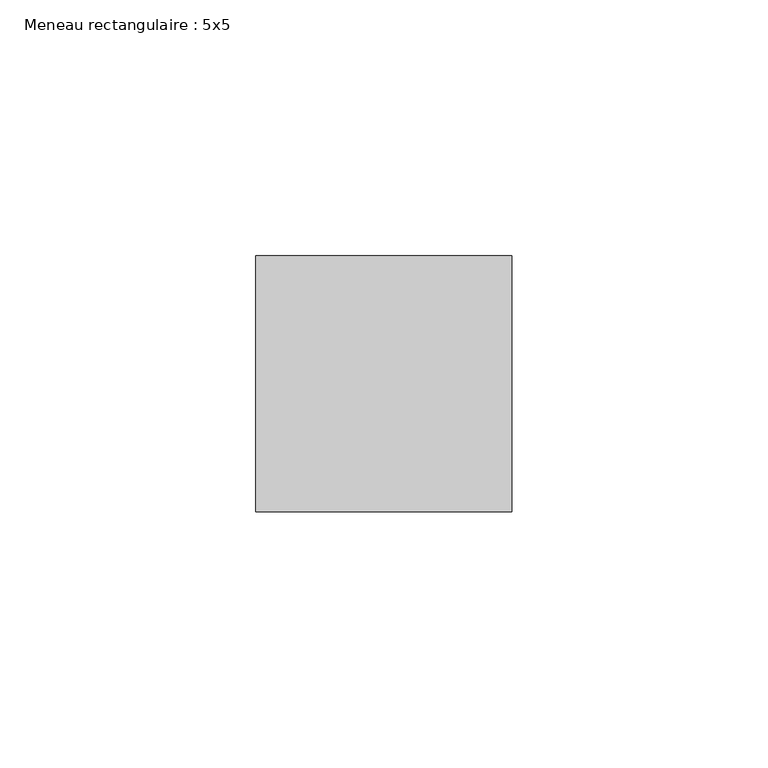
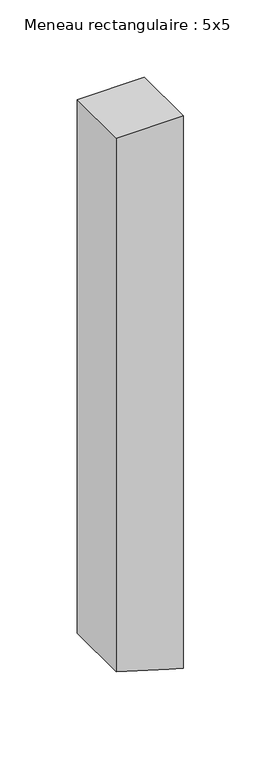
"""IFC4 building model written with IfcOpenShell, lengths in millimetres: member geometry, Meneau rectangulaire : 5x5."""

from ifc_helpers import new_model, si_unit, frame, origin, place, context, project, spatial, polyline, outline, extrude, source, transform, mapped, element, save


def meneau_rectangulaire_5x5_c7833920(model_context):
    return source(origin(), model_context, "Body", "SweptSolid", [
        extrude(outline(polyline([(0.0, 25.0), (0.0, -25.0), (-420.464843, -25.0), (-432.2750612, 14.3673943), (-435.464843, 25.0), (0.0, 25.0)])), frame((0.0, -25.0, 0.0), z_axis=(0.0, 1.0, 0.0), x_axis=(0.0, 0.0, 1.0)), (0.0, 0.0, 1.0), 50.0),
    ])


if __name__ == "__main__":
    model = new_model("IFC4")
    model_context = context("Model", 3, world=origin())
    ifc_project = project(units=[si_unit("LENGTHUNIT", "METRE", prefix="MILLI")], contexts=[model_context])
    site = spatial("IfcSite", under=ifc_project)
    building = spatial("IfcBuilding", under=site)
    placement = place(None, origin())
    meneau_rectangulaire_5x5_shape = meneau_rectangulaire_5x5_c7833920(model_context)
    element("IfcMember", 1, ObjectType="Meneau rectangulaire : 5x5", at=placement, inside=building, context=model_context, shape_type="MappedRepresentation", body=[
        mapped(meneau_rectangulaire_5x5_shape, transform((0.0, 0.0, 0.0), x_axis=(1.0, 0.0, 0.0), y_axis=(0.0, 1.0, 0.0), z_axis=(0.0, 0.0, 1.0))),
    ])
    save(model, "model.ifc")
